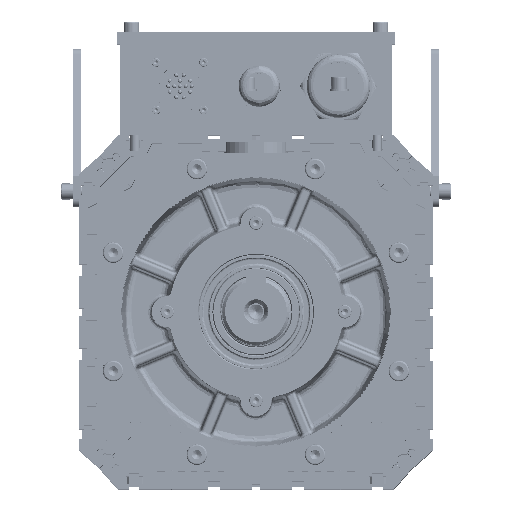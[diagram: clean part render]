
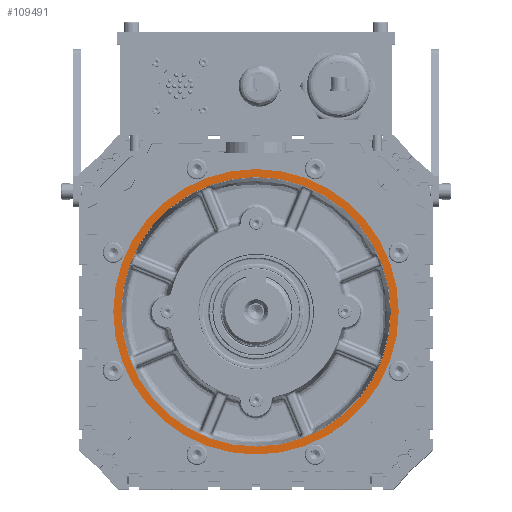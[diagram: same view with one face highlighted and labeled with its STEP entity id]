
A CAD part, top view. The second image highlights one B-rep face of the part: STEP entity #109491.
In plain terms, the highlighted planar face has unit normal (0, 0, 1) as drawn and (0, 0, -1) by its records, which use the part's own axes.
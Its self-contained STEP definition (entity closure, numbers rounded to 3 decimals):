
#5505 = DIRECTION ( 'NONE',  ( 0., 0., -1. ) ) ;
#5723 = CARTESIAN_POINT ( 'NONE',  ( -118.364, -25.305, 205. ) ) ;
#12904 = ORIENTED_EDGE ( 'NONE', *, *, #47444, .F. ) ;
#13259 = EDGE_CURVE ( 'NONE', #41001, #110413, #186921, .T. ) ;
#15009 = CIRCLE ( 'NONE', #73656, 85. ) ;
#23366 = CIRCLE ( 'NONE', #85644, 85. ) ;
#23701 = ORIENTED_EDGE ( 'NONE', *, *, #53774, .F. ) ;
#28917 = VERTEX_POINT ( 'NONE', #127186 ) ;
#37640 = DIRECTION ( 'NONE',  ( -1., 0., 0. ) ) ;
#41001 = VERTEX_POINT ( 'NONE', #5723 ) ;
#47444 = EDGE_CURVE ( 'NONE', #110413, #41001, #152911, .T. ) ;
#51122 = DIRECTION ( 'NONE',  ( -1., 0., 0. ) ) ;
#51199 = AXIS2_PLACEMENT_3D ( 'NONE', #70274, #185968, #144620 ) ;
#53774 = EDGE_CURVE ( 'NONE', #28917, #77821, #15009, .T. ) ;
#54142 = CARTESIAN_POINT ( 'NONE',  ( -113.364, -25.305, 205. ) ) ;
#54727 = CARTESIAN_POINT ( 'NONE',  ( -28.364, -25.305, 205. ) ) ;
#59667 = CARTESIAN_POINT ( 'NONE',  ( 61.636, -25.305, 205. ) ) ;
#62392 = ORIENTED_EDGE ( 'NONE', *, *, #13259, .F. ) ;
#70274 = CARTESIAN_POINT ( 'NONE',  ( -28.364, -115.305, 205. ) ) ;
#73656 = AXIS2_PLACEMENT_3D ( 'NONE', #179103, #5505, #107345 ) ;
#77376 = ORIENTED_EDGE ( 'NONE', *, *, #179871, .F. ) ;
#77821 = VERTEX_POINT ( 'NONE', #54142 ) ;
#85644 = AXIS2_PLACEMENT_3D ( 'NONE', #150365, #95019, #51122 ) ;
#86747 = PLANE ( 'NONE',  #51199 ) ;
#94143 = EDGE_LOOP ( 'NONE', ( #77376, #23701 ) ) ;
#95019 = DIRECTION ( 'NONE',  ( 0., 0., -1. ) ) ;
#95476 = DIRECTION ( 'NONE',  ( 0., 0., 1. ) ) ;
#106683 = FACE_OUTER_BOUND ( 'NONE', #174671, .T. ) ;
#107345 = DIRECTION ( 'NONE',  ( -1., 0., 0. ) ) ;
#109491 = ADVANCED_FACE ( 'NONE', ( #106683, #154389 ), #86747, .F. ) ;
#110413 = VERTEX_POINT ( 'NONE', #59667 ) ;
#115822 = AXIS2_PLACEMENT_3D ( 'NONE', #158259, #171608, #144248 ) ;
#127186 = CARTESIAN_POINT ( 'NONE',  ( 56.636, -25.305, 205. ) ) ;
#144248 = DIRECTION ( 'NONE',  ( -1., 0., 0. ) ) ;
#144620 = DIRECTION ( 'NONE',  ( 1., 0., 0. ) ) ;
#150365 = CARTESIAN_POINT ( 'NONE',  ( -28.364, -25.305, 205. ) ) ;
#152911 = CIRCLE ( 'NONE', #172461, 90. ) ;
#154389 = FACE_BOUND ( 'NONE', #94143, .T. ) ;
#158259 = CARTESIAN_POINT ( 'NONE',  ( -28.364, -25.305, 205. ) ) ;
#171608 = DIRECTION ( 'NONE',  ( 0., 0., 1. ) ) ;
#172461 = AXIS2_PLACEMENT_3D ( 'NONE', #54727, #95476, #37640 ) ;
#174671 = EDGE_LOOP ( 'NONE', ( #62392, #12904 ) ) ;
#179103 = CARTESIAN_POINT ( 'NONE',  ( -28.364, -25.305, 205. ) ) ;
#179871 = EDGE_CURVE ( 'NONE', #77821, #28917, #23366, .T. ) ;
#185968 = DIRECTION ( 'NONE',  ( 0., 0., 1. ) ) ;
#186921 = CIRCLE ( 'NONE', #115822, 90. ) ;
